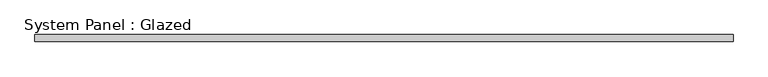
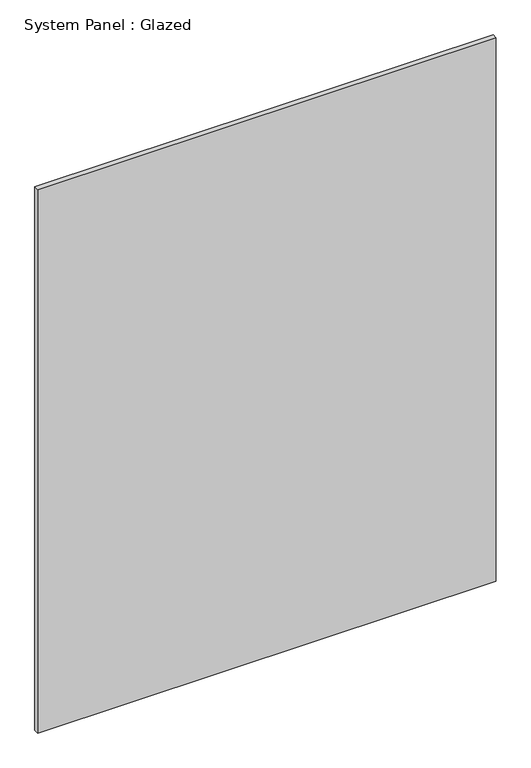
"""IFC4 building model written with IfcOpenShell, lengths in millimetres: plate geometry, System Panel : Glazed."""

from ifc_helpers import new_model, si_unit, origin, origin_with_axes, place, context, project, spatial, polyline, outline, extrude, source, transform, mapped, element, save


def system_panel_glazed_536b5d24(model_context):
    return source(origin(), model_context, "Body", "SweptSolid", [
        extrude(outline(polyline([(1237.5, 24.5), (-1237.5, 24.5), (-1237.5, 49.5), (1237.5, 49.5), (1237.5, 24.5)])), origin_with_axes(), (0.0, 0.0, 1.0), 3100.0),
    ])


if __name__ == "__main__":
    model = new_model("IFC4")
    model_context = context("Model", 3, world=origin())
    ifc_project = project(units=[si_unit("LENGTHUNIT", "METRE", prefix="MILLI")], contexts=[model_context])
    site = spatial("IfcSite", under=ifc_project)
    building = spatial("IfcBuilding", under=site)
    placement = place(None, origin())
    system_panel_glazed_shape = system_panel_glazed_536b5d24(model_context)
    element("IfcPlate", 1, ObjectType="System Panel : Glazed", at=placement, inside=building, context=model_context, shape_type="MappedRepresentation", body=[
        mapped(system_panel_glazed_shape, transform((0.0, 0.0, 0.0), x_axis=(1.0, 0.0, 0.0), y_axis=(0.0, 1.0, 0.0), z_axis=(0.0, 0.0, 1.0))),
    ])
    save(model, "model.ifc")
